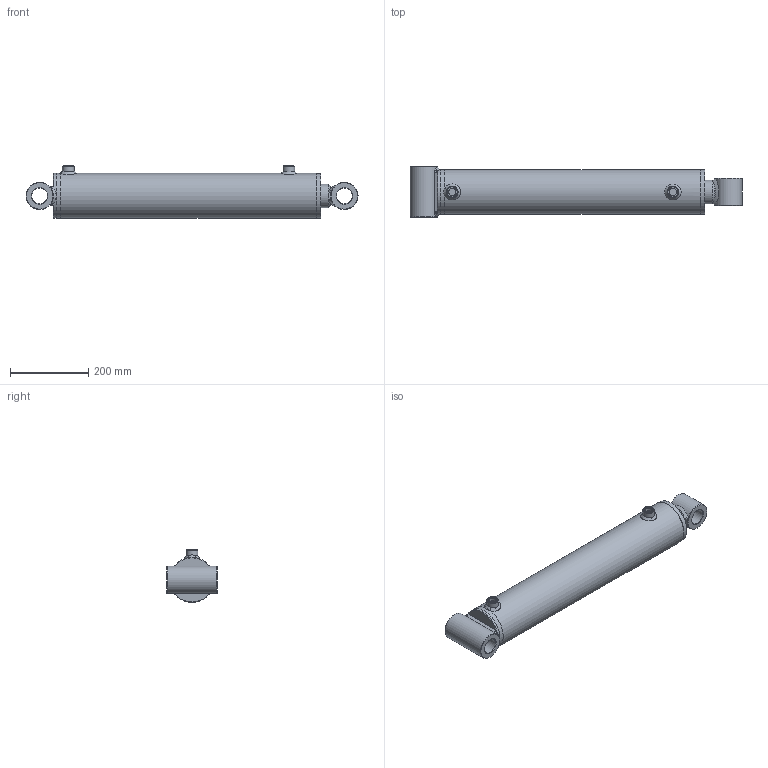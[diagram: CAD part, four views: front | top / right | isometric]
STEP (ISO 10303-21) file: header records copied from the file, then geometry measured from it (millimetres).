
FILE_DESCRIPTION( ( 'Unknown' ), '1' );
FILE_NAME( 'E:/LIBRERIA_3d/CILINDRI/HM2/HM26600500.stp', 'Unknown', ( 'Unknown' ), ( 'Unknown' ), 'PSStep 17.0.49', 'Unknown', ' ' );
FILE_SCHEMA( ( 'AUTOMOTIVE_DESIGN { 1 0 10303 214 1 1 1 1 }' ) );
Length unit declared in the file: millimetre
Products named in the file (27): STL6700500-oa6; Saldatura d'angolo 1-oa4; CBS0800000; FTM6700500-oa5; CT00100033; CG11510060; HM06600500; CF00100115; Saldatura con preparazione 1-oa2; Saldatura d'angolo 1-oa3; CDA0003320; APG0800000; SBL6060500; Assem1; CB40070070; CB40070130; Saldatura d'angolo 1-oa0; Saldatura d'angolo 2-oa1
Assembly tree (18 placements, depth 4):
  Saldatura d'angolo 1-oa4
  Saldatura d'angolo 1-oa4
  Saldatura d'angolo 1-oa3
  Saldatura d'angolo 1-oa3
  Assem1
    CB40070070
    CB40070130
    HM06600500
      CF00100115
      Saldatura con preparazione 1-oa2
      Saldatura con preparazione 1-oa2
      CBS0800000
      CDA0003320
      APG0800000  x2
      SBL6060500
      CT00100033
        CT00100033
      CG11510060
        CG11510060
      STL6700500-oa6
        CBS0800000
        FTM6700500-oa5
Bounding box: 850 x 130 x 135 mm (x, y, z)
Volume: 4958706.6 mm3; surface area: 873172.6 mm2
Topology: 24 solids, 24 shells, 328 faces, 678 edges, 381 vertices
Faces by surface type: bspline 118, plane 72, cylinder 62, cone 40, torus 36
Full cylindrical faces by diameter (mm): 4.25 x1, 8 x2, 12 x1, 18.631 x2, 19.5 x2, 20.95 x2, 26 x2, 30 x2, 32.4 x1, 33 x5, 39.2 x1, 40.25 x2, 50 x1, 60 x5, 63 x3, 68.6 x1, 70 x2, 72 x1, 75 x1, 91.5 x1, 93.14 x2, 98.05 x2, 99.9 x1, 100 x1, 100.3 x1, 100.5 x1, 100.6 x1, 101 x1, 102 x3, 102.835 x1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
Entity records: 17778 total; most frequent: CARTESIAN_POINT 10036, ORIENTED_EDGE 908, DIRECTION 834, EDGE_LOOP 489, EDGE_CURVE 454, FACE_OUTER_BOUND 410, AXIS2_PLACEMENT_3D 404, VERTEX_POINT 330
